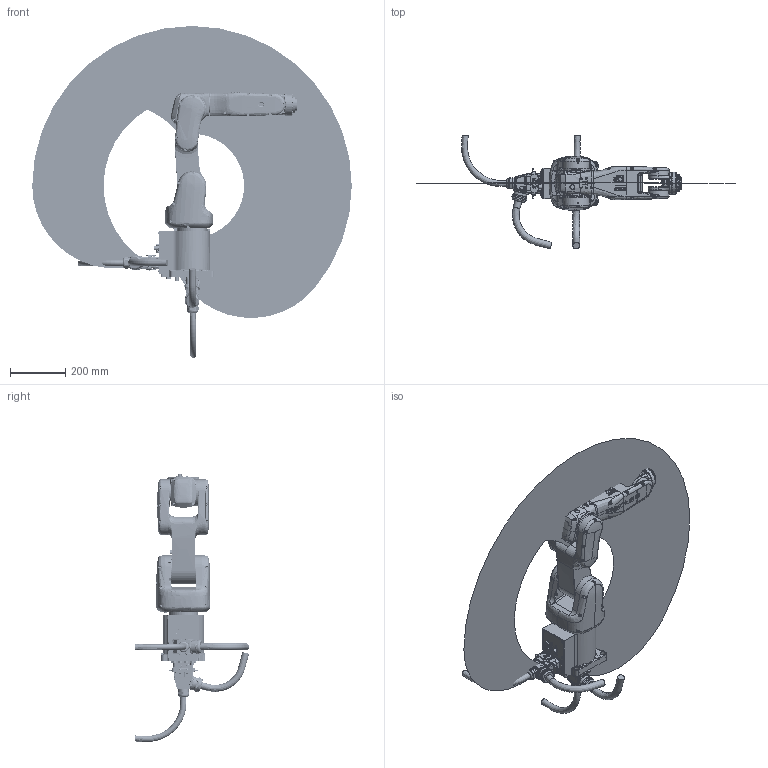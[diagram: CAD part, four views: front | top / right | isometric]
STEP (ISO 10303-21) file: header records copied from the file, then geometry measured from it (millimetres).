
FILE_DESCRIPTION(/* description */ (''),/* implementation_level */ '2;1');
FILE_NAME(/* name */ 'NB4h-R580 简化模型(20220601).stp',/* time_stamp */ '2022-06-01T16:14:13+08:00',/* author */ (''),/* organization */ (''),/* preprocessor_version */ 'ST-DEVELOPER v16',/* originating_system */ 'SIEMENS PLM Software NX 10.0',/* authorisation */ '');
FILE_SCHEMA (('CONFIG_CONTROL_DESIGN'));
Products named in the file (9): NB4-3Dwork-B; NB4-xiaobiqian-Clogo; NB4-dabi-B; NB4-shuchu-B; NB4-base-A; NB4-xiaobihou-A; NB4-shouwan-B; NB4-yao-A; NB4h-R580 简化模型(20220601)
Assembly tree (8 placements, depth 2):
  NB4h-R580 简化模型(20220601)
    NB4-yao-A
    NB4-shouwan-B
    NB4-xiaobihou-A
    NB4-base-A
    NB4-shuchu-B
    NB4-dabi-B
    NB4-xiaobiqian-Clogo
    NB4-3Dwork-B
Bounding box: 1160.75 x 414.28 x 1206.11 mm (x, y, z)
Volume: 12327092.9 mm3; surface area: 1784362.8 mm2
Topology: 19 solids, 82 shells, 5771 faces, 14147 edges, 8739 vertices
Faces by surface type: plane 2116, cylinder 1330, bspline 919, cone 556, extrusion 536, torus 282, sphere 32
Full cylindrical faces by diameter (mm): 2.5 x13, 3 x8, 3.2 x9, 3.3 x10, 3.838 x9, 4.2 x4, 4.5 x9, 4.8 x8, 5 x10, 5.1 x8, 5.5 x53, 5.6 x42, 6 x6, 6.5 x10, 7 x14, 8.7 x1, 8.8 x2, 9 x5, 9.5 x1, 10 x2, 11 x7, 12 x3, 13 x8, 13.5 x1, 14.3 x1, 15 x1, 16 x1, 17 x1, 17.5 x1, 18.5 x1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
Entity records: 419184 total; most frequent: CARTESIAN_POINT 296232, ORIENTED_EDGE 26270, DIRECTION 22119, EDGE_CURVE 13138, VERTEX_POINT 8483, AXIS2_PLACEMENT_3D 8260, EDGE_LOOP 6712, ADVANCED_FACE 5764
